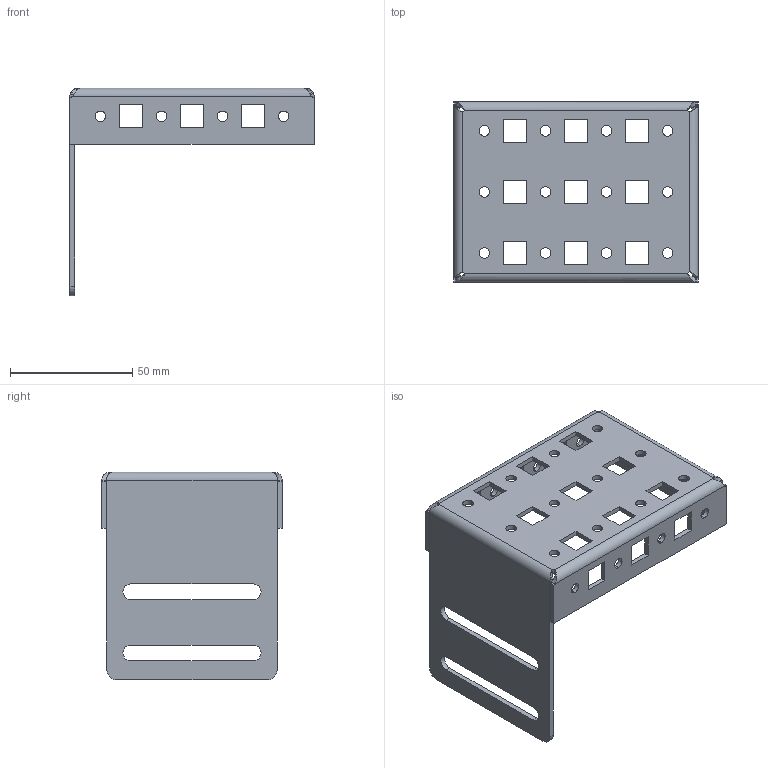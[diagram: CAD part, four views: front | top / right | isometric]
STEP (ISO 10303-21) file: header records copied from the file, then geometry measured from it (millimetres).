
FILE_DESCRIPTION (( 'STEP AP214' ), '1' );
FILE_NAME ('B 09 G Êîíñîëü äëÿ ðååê âåðòèêàëüíûõ 19``.STEP', '2025-10-02T08:46:00', ( '' ), ( '' ), 'SwSTEP 2.0', 'SolidWorks 2019', '' );
FILE_SCHEMA (( 'AUTOMOTIVE_DESIGN' ));
Length unit declared in the file: millimetre
Products named in the file (1): B 09 G Êîíñîëü äëÿ ðååê âåðòèêàëüíûõ 19``
Bounding box: 100 x 74 x 85 mm (x, y, z)
Volume: 32077.3 mm3; surface area: 35620.1 mm2
Topology: 1 solids, 1 shells, 186 faces, 520 edges, 336 vertices
Faces by surface type: plane 98, cylinder 68, bspline 20
Entity records: 6434 total; most frequent: CARTESIAN_POINT 1587, ORIENTED_EDGE 1040, DIRECTION 890, EDGE_CURVE 520, VERTEX_POINT 336, LINE 316, VECTOR 316, AXIS2_PLACEMENT_3D 287
